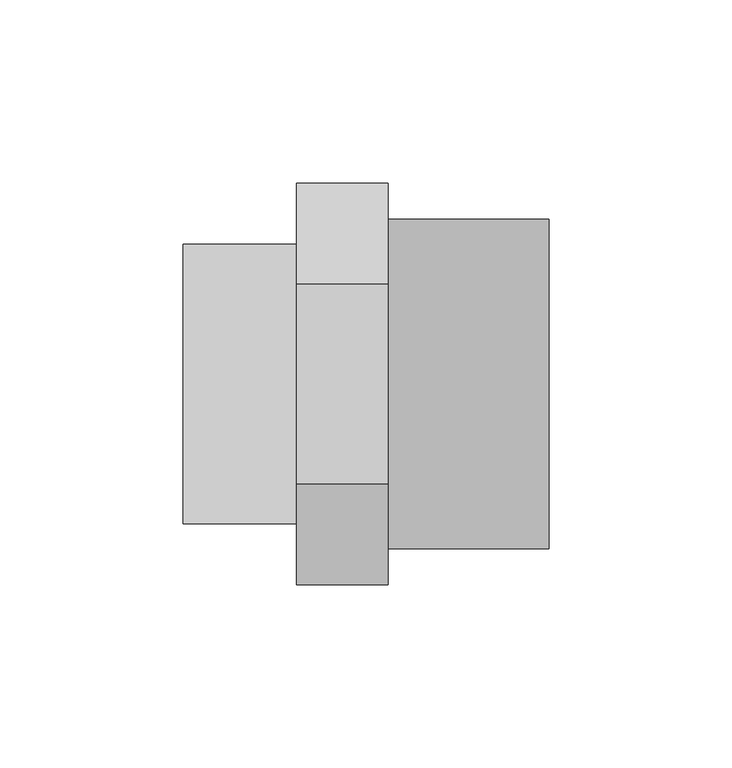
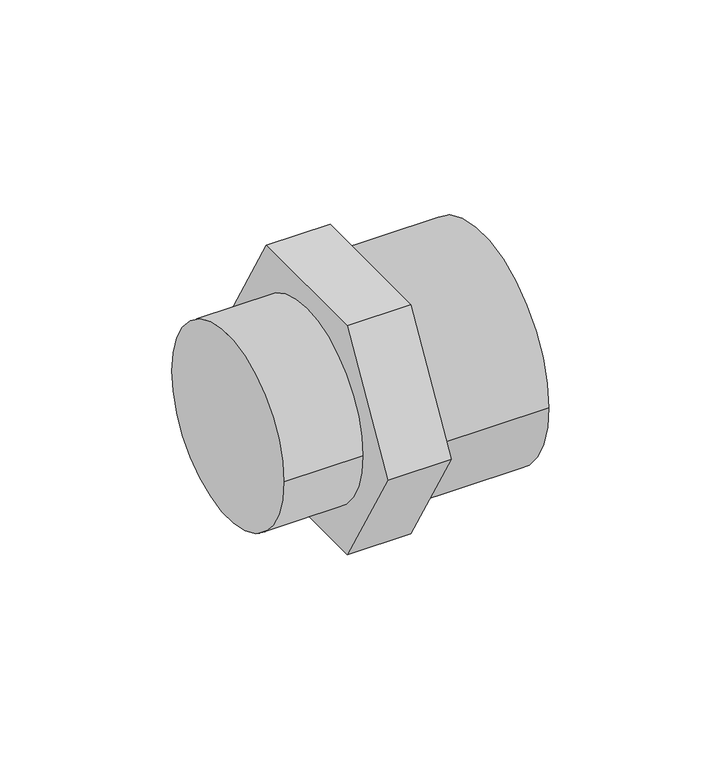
"""IFC4 building model written with IfcOpenShell, lengths in millimetres: pipe fitting geometry, 01101081 : Uniões múltiplas F/M/M."""

from ifc_helpers import new_model, si_unit, point, frame, origin, origin_2d, place, context, project, spatial, polyline, circle_curve, trimmed, segment, composite_curve, outline, extrude, source, transform, mapped, element, save


def pipe_fitting_012467ab(model_context):
    return source(origin(), model_context, "Body", "SweptSolid", [
        extrude(outline(composite_curve([segment(trimmed(circle_curve(origin_2d(), 38.1), [point((38.1, 0.0))], [point((-38.1, 0.0))], False, "CARTESIAN"), True, "CONTINUOUS"), segment(trimmed(circle_curve(origin_2d(), 38.1), [point((-38.1, 0.0))], [point((38.1, 0.0))], False, "CARTESIAN"), True, "CONTINUOUS")], self_intersect=False)), frame((0.0, 0.0, 0.0), z_axis=(1.0, 0.0, 0.0), x_axis=(0.0, 1.0, 0.0)), (0.0, 0.0, 1.0), 31.0),
        extrude(outline(polyline([(-27.4241378, 47.5), (27.4241378, 47.5), (54.8482756, 0.0), (27.4241378, -47.5), (-27.4241378, -47.5), (-54.8482756, 0.0), (-27.4241378, 47.5)])), frame((31.0, 0.0, 0.0), z_axis=(1.0, 0.0, 0.0), x_axis=(0.0, 1.0, 0.0)), (0.0, 0.0, 1.0), 25.0),
        extrude(outline(composite_curve([segment(trimmed(circle_curve(origin_2d(), 45.0), [point((-45.0, 0.0))], [point((45.0, 0.0))], False, "CARTESIAN"), True, "CONTINUOUS"), segment(trimmed(circle_curve(origin_2d(), 45.0), [point((45.0, 0.0))], [point((-45.0, 0.0))], False, "CARTESIAN"), True, "CONTINUOUS")], self_intersect=False)), frame((56.0, 0.0, 0.0), z_axis=(1.0, 0.0, 0.0), x_axis=(0.0, 1.0, 0.0)), (0.0, 0.0, 1.0), 44.0),
    ])


if __name__ == "__main__":
    model = new_model("IFC4")
    model_context = context("Model", 3, world=origin())
    ifc_project = project(units=[si_unit("LENGTHUNIT", "METRE", prefix="MILLI")], contexts=[model_context])
    site = spatial("IfcSite", under=ifc_project)
    building = spatial("IfcBuilding", under=site)
    placement = place(None, origin())
    pipe_fitting_shape = pipe_fitting_012467ab(model_context)
    element("IfcPipeFitting", 1, ObjectType="01101081 : Uniões múltiplas F/M/M", at=placement, inside=building, context=model_context, shape_type="MappedRepresentation", body=[
        mapped(pipe_fitting_shape, transform((0.0, 0.0, 0.0), x_axis=(1.0, 0.0, 0.0), y_axis=(0.0, 1.0, 0.0), z_axis=(0.0, 0.0, 1.0))),
    ])
    save(model, "model.ifc")
